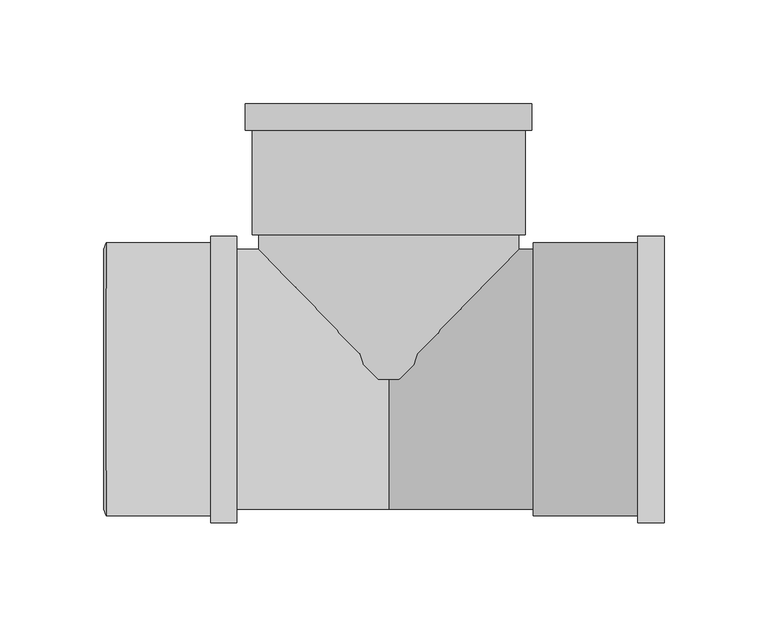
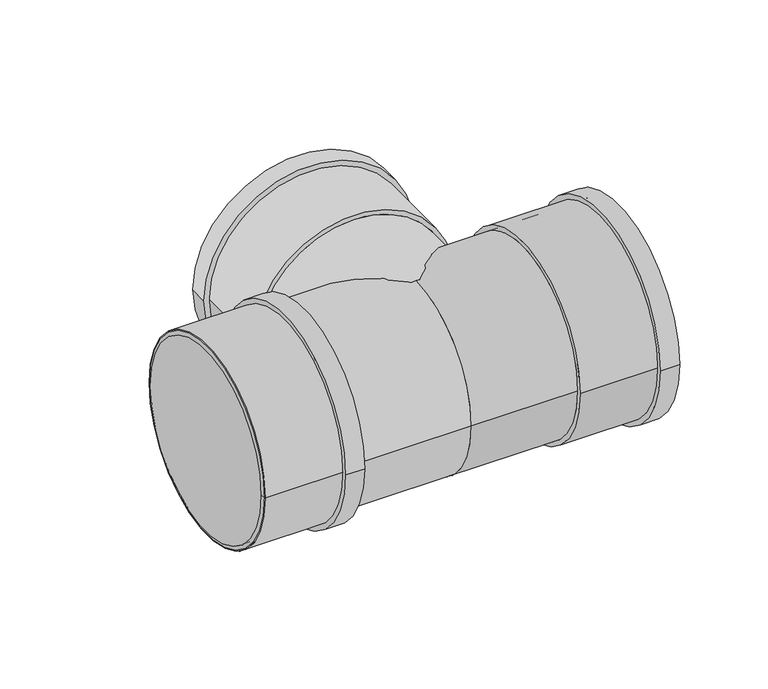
"""IFC4 building model written with IfcOpenShell, lengths in millimetres: pipe fitting geometry, Superdrain HTEA Branch : Superdrain HTEA Branch."""

from ifc_helpers import new_model, si_unit, point, frame, origin, origin_2d, place, context, project, spatial, polyline, circle_curve, trimmed, segment, composite_curve, outline, extrude, source, transform, mapped, element, save
from ifc_brep_helpers import plane_surface, revolved_surface, advanced_brep


def pipe_fitting_2198333b(model_context):
    return source(origin(), model_context, "Body", "SolidModel", [
        extrude(outline(composite_curve([segment(trimmed(circle_curve(origin_2d(), 65.625), [point((65.625, 0.0))], [point((-65.625, 0.0))], False, "CARTESIAN"), True, "CONTINUOUS"), segment(trimmed(circle_curve(origin_2d(), 65.625), [point((-65.625, 0.0))], [point((65.625, 0.0))], False, "CARTESIAN"), True, "CONTINUOUS")], self_intersect=False), holes=[composite_curve([segment(trimmed(circle_curve(origin_2d(), 62.5), [point((62.5, 0.0))], [point((-62.5, 0.0))], True, "CARTESIAN"), True, "CONTINUOUS"), segment(trimmed(circle_curve(origin_2d(), 62.5), [point((-62.5, 0.0))], [point((62.5, 0.0))], True, "CARTESIAN"), True, "CONTINUOUS")], self_intersect=False)]), frame((-136.0, 0.0, 0.0), z_axis=(1.0, 0.0, 0.0), x_axis=(0.0, 1.0, 0.0)), (0.0, 0.0, 1.0), 63.0),
        extrude(outline(composite_curve([segment(trimmed(circle_curve(origin_2d(), 68.90625), [point((68.90625, 0.0))], [point((-68.90625, 0.0))], False, "CARTESIAN"), True, "CONTINUOUS"), segment(trimmed(circle_curve(origin_2d(), 68.90625), [point((-68.90625, 0.0))], [point((68.90625, 0.0))], False, "CARTESIAN"), True, "CONTINUOUS")], self_intersect=False), holes=[composite_curve([segment(trimmed(circle_curve(origin_2d(), 62.5), [point((62.5, 0.0))], [point((-62.5, 0.0))], True, "CARTESIAN"), True, "CONTINUOUS"), segment(trimmed(circle_curve(origin_2d(), 62.5), [point((-62.5, 0.0))], [point((62.5, 0.0))], True, "CARTESIAN"), True, "CONTINUOUS")], self_intersect=False)]), frame((-85.6, 0.0, 0.0), z_axis=(1.0, 0.0, 0.0), x_axis=(0.0, 1.0, 0.0)), (0.0, 0.0, 1.0), 12.6),
        advanced_brep(
        [(-137.0, 62.5, 0.0), (-137.0, -62.5, 0.0), (-136.0, 65.625, 0.0), (-136.0, -65.625, 0.0)],
        [
            (0, 1, circle_curve(frame((-137.0, 0.0, 0.0), z_axis=(-1.0, 0.0, 0.0), x_axis=(0.0, 1.0000000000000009, 0.0)), 62.5)),
            (1, 0, circle_curve(frame((-137.0, 0.0, 0.0), z_axis=(-1.0, 0.0, 0.0), x_axis=(0.0, -1.0000000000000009, 0.0)), 62.5)),
            (2, 3, circle_curve(frame((-136.0, 0.0, 0.0), z_axis=(1.0, 0.0, 0.0), x_axis=(0.0, -1.0000000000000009, 0.0)), 65.625)),
            (3, 2, circle_curve(frame((-136.0, 0.0, 0.0), z_axis=(1.0, 0.0, 0.0), x_axis=(0.0, 1.0000000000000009, 0.0)), 65.625)),
            (3, 1),
            (0, 2),
        ],
        [
            plane_surface(frame((-137.0, 0.0, 0.0), z_axis=(-1.0, 0.0, 0.0), x_axis=(0.0, 0.0, -1.0))),
            plane_surface(frame((-136.0, 0.0, 0.0), z_axis=(1.0, 0.0, 0.0), x_axis=(0.0, 0.0, -1.0))),
            revolved_surface(polyline([(-137.0, 62.499999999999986, 0.0), (-136.0, 65.625, 0.0)]), (-157.0, 0.0, 0.0), (1.0000000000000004, 0.0, 0.0)),
            revolved_surface(polyline([(-137.0, -62.499999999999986, 0.0), (-136.0, -65.625, 0.0)]), (-157.0, 0.0, 0.0), (1.0000000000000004, 0.0, 0.0)),
        ],
        [
            (0, [[1, 2]]),
            (1, [[3, 4]]),
            (2, [[-4, 5, -1, 6]]),
            (3, [[-3, -6, -2, -5]]),
        ],
    ),
        extrude(outline(composite_curve([segment(trimmed(circle_curve(origin_2d(), 65.625), [point((-65.625, 0.0))], [point((65.625, 0.0))], False, "CARTESIAN"), True, "CONTINUOUS"), segment(trimmed(circle_curve(origin_2d(), 65.625), [point((65.625, 0.0))], [point((-65.625, 0.0))], False, "CARTESIAN"), True, "CONTINUOUS")], self_intersect=False), holes=[composite_curve([segment(trimmed(circle_curve(origin_2d(), 62.5), [point((62.5, 0.0))], [point((-62.5, 0.0))], True, "CARTESIAN"), True, "CONTINUOUS"), segment(trimmed(circle_curve(origin_2d(), 62.5), [point((-62.5, 0.0))], [point((62.5, 0.0))], True, "CARTESIAN"), True, "CONTINUOUS")], self_intersect=False)]), frame((69.5, 0.0, 0.0), z_axis=(1.0, 0.0, 0.0), x_axis=(0.0, 1.0, 0.0)), (0.0, 0.0, 1.0), 63.0),
        extrude(outline(composite_curve([segment(trimmed(circle_curve(origin_2d(), 68.90625), [point((68.90625, 0.0))], [point((-68.90625, 0.0))], False, "CARTESIAN"), True, "CONTINUOUS"), segment(trimmed(circle_curve(origin_2d(), 68.90625), [point((-68.90625, 0.0))], [point((68.90625, 0.0))], False, "CARTESIAN"), True, "CONTINUOUS")], self_intersect=False), holes=[composite_curve([segment(trimmed(circle_curve(origin_2d(), 62.5), [point((62.5, 0.0))], [point((-62.5, 0.0))], True, "CARTESIAN"), True, "CONTINUOUS"), segment(trimmed(circle_curve(origin_2d(), 62.5), [point((-62.5, 0.0))], [point((62.5, 0.0))], True, "CARTESIAN"), True, "CONTINUOUS")], self_intersect=False)]), frame((119.9, 0.0, 0.0), z_axis=(1.0, 0.0, 0.0), x_axis=(0.0, 1.0, 0.0)), (0.0, 0.0, 1.0), 12.6),
        extrude(outline(composite_curve([segment(trimmed(circle_curve(origin_2d(), 62.5), [point((0.0, 62.5))], [point((0.0, -62.5))], False, "CARTESIAN"), True, "CONTINUOUS"), segment(trimmed(circle_curve(origin_2d(), 62.5), [point((0.0, -62.5))], [point((0.0, 62.5))], False, "CARTESIAN"), True, "CONTINUOUS")], self_intersect=False)), frame((0.0, 0.0, 0.0), z_axis=(0.0, 1.0, 0.0), x_axis=(0.0, 0.0, 1.0)), (0.0, 0.0, 1.0), 69.5),
        extrude(outline(composite_curve([segment(trimmed(circle_curve(origin_2d(), 62.5), [point((62.5, 0.0))], [point((-62.5, 0.0))], False, "CARTESIAN"), True, "CONTINUOUS"), segment(trimmed(circle_curve(origin_2d(), 62.5), [point((-62.5, 0.0))], [point((62.5, 0.0))], False, "CARTESIAN"), True, "CONTINUOUS")], self_intersect=False)), frame((-136.0, 0.0, 0.0), z_axis=(1.0, 0.0, 0.0), x_axis=(0.0, 1.0, 0.0)), (0.0, 0.0, 1.0), 136.0),
        extrude(outline(composite_curve([segment(trimmed(circle_curve(origin_2d(), 62.5), [point((-62.5, 0.0))], [point((62.5, 0.0))], False, "CARTESIAN"), True, "CONTINUOUS"), segment(trimmed(circle_curve(origin_2d(), 62.5), [point((62.5, 0.0))], [point((-62.5, 0.0))], False, "CARTESIAN"), True, "CONTINUOUS")], self_intersect=False)), frame((0.0, 0.0, 0.0), z_axis=(1.0, 0.0, 0.0), x_axis=(0.0, 1.0, 0.0)), (0.0, 0.0, 1.0), 69.5),
        extrude(outline(composite_curve([segment(trimmed(circle_curve(origin_2d(), 68.90625), [point((0.0, 68.90625))], [point((0.0, -68.90625))], False, "CARTESIAN"), True, "CONTINUOUS"), segment(trimmed(circle_curve(origin_2d(), 68.90625), [point((0.0, -68.90625))], [point((0.0, 68.90625))], False, "CARTESIAN"), True, "CONTINUOUS")], self_intersect=False), holes=[composite_curve([segment(trimmed(circle_curve(origin_2d(), 62.5), [point((0.0, 62.5))], [point((0.0, -62.5))], True, "CARTESIAN"), True, "CONTINUOUS"), segment(trimmed(circle_curve(origin_2d(), 62.5), [point((0.0, -62.5))], [point((0.0, 62.5))], True, "CARTESIAN"), True, "CONTINUOUS")], self_intersect=False)]), frame((0.0, 119.9, 0.0), z_axis=(0.0, 1.0, 0.0), x_axis=(0.0, 0.0, 1.0)), (0.0, 0.0, 1.0), 12.6),
        extrude(outline(composite_curve([segment(trimmed(circle_curve(origin_2d(), 65.625), [point((0.0, 65.625))], [point((0.0, -65.625))], False, "CARTESIAN"), True, "CONTINUOUS"), segment(trimmed(circle_curve(origin_2d(), 65.625), [point((0.0, -65.625))], [point((0.0, 65.625))], False, "CARTESIAN"), True, "CONTINUOUS")], self_intersect=False), holes=[composite_curve([segment(trimmed(circle_curve(origin_2d(), 62.5), [point((0.0, 62.5))], [point((0.0, -62.5))], True, "CARTESIAN"), True, "CONTINUOUS"), segment(trimmed(circle_curve(origin_2d(), 62.5), [point((0.0, -62.5))], [point((0.0, 62.5))], True, "CARTESIAN"), True, "CONTINUOUS")], self_intersect=False)]), frame((0.0, 69.5, 0.0), z_axis=(0.0, 1.0, 0.0), x_axis=(0.0, 0.0, 1.0)), (0.0, 0.0, 1.0), 63.0),
    ])


if __name__ == "__main__":
    model = new_model("IFC4")
    model_context = context("Model", 3, world=origin())
    ifc_project = project(units=[si_unit("LENGTHUNIT", "METRE", prefix="MILLI")], contexts=[model_context])
    site = spatial("IfcSite", under=ifc_project)
    building = spatial("IfcBuilding", under=site)
    placement = place(None, origin())
    pipe_fitting_shape = pipe_fitting_2198333b(model_context)
    element("IfcPipeFitting", 1, ObjectType="Superdrain HTEA Branch : Superdrain HTEA Branch", at=placement, inside=building, context=model_context, shape_type="MappedRepresentation", body=[
        mapped(pipe_fitting_shape, transform((0.0, 0.0, 0.0), x_axis=(1.0, 0.0, 0.0), y_axis=(0.0, 1.0, 0.0), z_axis=(0.0, 0.0, 1.0))),
    ])
    save(model, "model.ifc")
